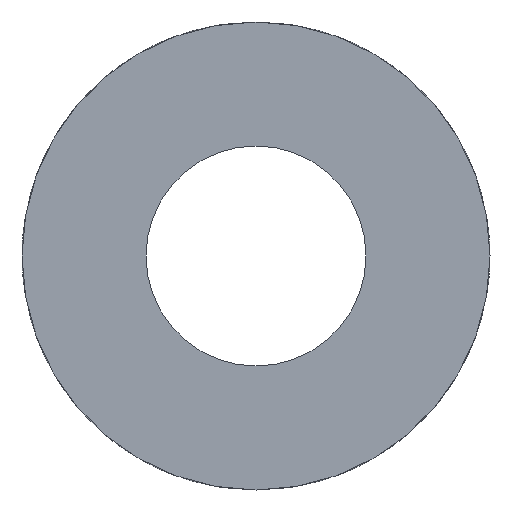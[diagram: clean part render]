
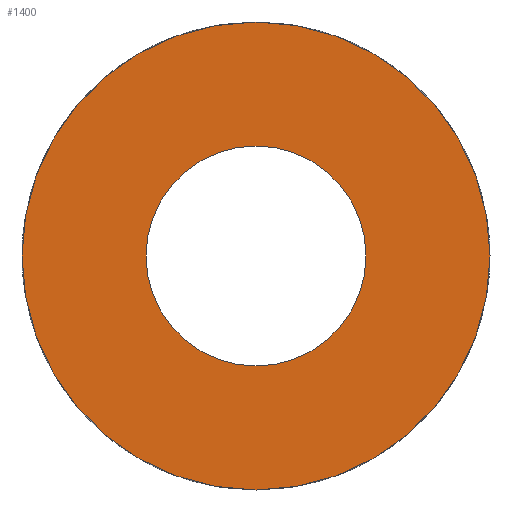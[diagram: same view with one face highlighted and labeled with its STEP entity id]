
A CAD part, front view. The second image highlights one B-rep face of the part: STEP entity #1400.
In plain terms, the highlighted planar face has unit normal (0, -1, 0).
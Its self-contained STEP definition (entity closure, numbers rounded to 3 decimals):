
#7 = CIRCLE ( 'NONE', #1576, 7.05 ) ;
#15 = VERTEX_POINT ( 'NONE', #938 ) ;
#58 = AXIS2_PLACEMENT_3D ( 'NONE', #1637, #988, #1133 ) ;
#76 = CARTESIAN_POINT ( 'NONE',  ( 0., 0., 7.05 ) ) ;
#116 = EDGE_LOOP ( 'NONE', ( #1371, #776 ) ) ;
#226 = CIRCLE ( 'NONE', #1178, 15. ) ;
#288 = ORIENTED_EDGE ( 'NONE', *, *, #1508, .F. ) ;
#411 = DIRECTION ( 'NONE',  ( 0., 1., 0. ) ) ;
#433 = EDGE_LOOP ( 'NONE', ( #531, #288 ) ) ;
#450 = EDGE_CURVE ( 'NONE', #753, #15, #226, .T. ) ;
#519 = DIRECTION ( 'NONE',  ( 0., 1., 0. ) ) ;
#531 = ORIENTED_EDGE ( 'NONE', *, *, #450, .F. ) ;
#580 = VERTEX_POINT ( 'NONE', #974 ) ;
#584 = CARTESIAN_POINT ( 'NONE',  ( 0., 0., 0. ) ) ;
#634 = FACE_OUTER_BOUND ( 'NONE', #433, .T. ) ;
#720 = DIRECTION ( 'NONE',  ( 0., 0., 1. ) ) ;
#737 = VERTEX_POINT ( 'NONE', #76 ) ;
#753 = VERTEX_POINT ( 'NONE', #1587 ) ;
#776 = ORIENTED_EDGE ( 'NONE', *, *, #1261, .T. ) ;
#785 = CARTESIAN_POINT ( 'NONE',  ( 0., 0., 0. ) ) ;
#800 = CIRCLE ( 'NONE', #1223, 15. ) ;
#823 = DIRECTION ( 'NONE',  ( 0., 1., 0. ) ) ;
#842 = EDGE_CURVE ( 'NONE', #737, #580, #7, .T. ) ;
#924 = DIRECTION ( 'NONE',  ( 0., 0., 1. ) ) ;
#938 = CARTESIAN_POINT ( 'NONE',  ( 0., 0., 15. ) ) ;
#974 = CARTESIAN_POINT ( 'NONE',  ( 0., 0., -7.05 ) ) ;
#988 = DIRECTION ( 'NONE',  ( 0., 1., 0. ) ) ;
#1062 = CIRCLE ( 'NONE', #1282, 7.05 ) ;
#1100 = FACE_BOUND ( 'NONE', #116, .T. ) ;
#1128 = DIRECTION ( 'NONE',  ( 0., 0., 1. ) ) ;
#1133 = DIRECTION ( 'NONE',  ( 0., 0., 1. ) ) ;
#1178 = AXIS2_PLACEMENT_3D ( 'NONE', #1354, #823, #720 ) ;
#1223 = AXIS2_PLACEMENT_3D ( 'NONE', #785, #411, #1295 ) ;
#1261 = EDGE_CURVE ( 'NONE', #580, #737, #1062, .T. ) ;
#1282 = AXIS2_PLACEMENT_3D ( 'NONE', #584, #1593, #924 ) ;
#1295 = DIRECTION ( 'NONE',  ( 0., 0., 1. ) ) ;
#1354 = CARTESIAN_POINT ( 'NONE',  ( 0., 0., 0. ) ) ;
#1371 = ORIENTED_EDGE ( 'NONE', *, *, #842, .T. ) ;
#1378 = CARTESIAN_POINT ( 'NONE',  ( 0., 0., 0. ) ) ;
#1400 = ADVANCED_FACE ( 'NONE', ( #1100, #634 ), #1487, .F. ) ;
#1487 = PLANE ( 'NONE',  #58 ) ;
#1508 = EDGE_CURVE ( 'NONE', #15, #753, #800, .T. ) ;
#1576 = AXIS2_PLACEMENT_3D ( 'NONE', #1378, #519, #1128 ) ;
#1587 = CARTESIAN_POINT ( 'NONE',  ( 0., 0., -15. ) ) ;
#1593 = DIRECTION ( 'NONE',  ( 0., 1., 0. ) ) ;
#1637 = CARTESIAN_POINT ( 'NONE',  ( 0., 0., 0. ) ) ;
